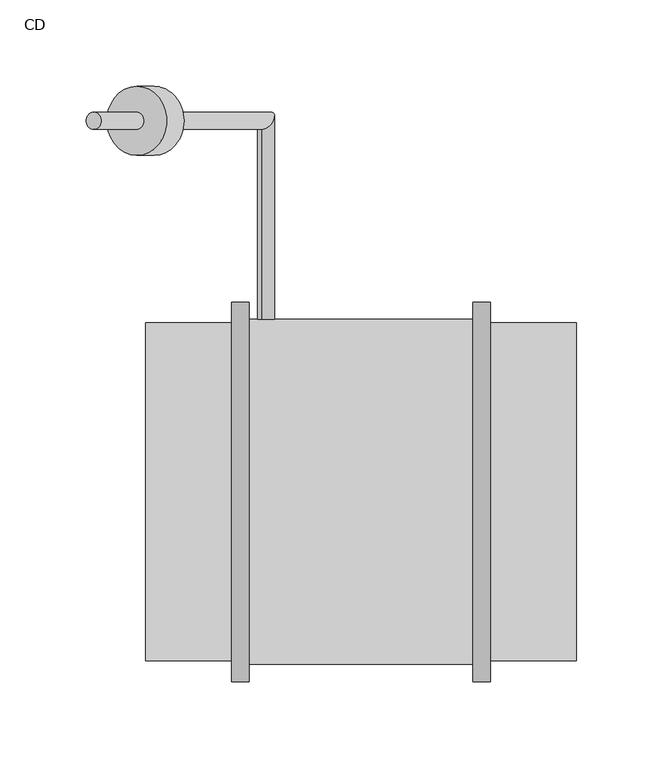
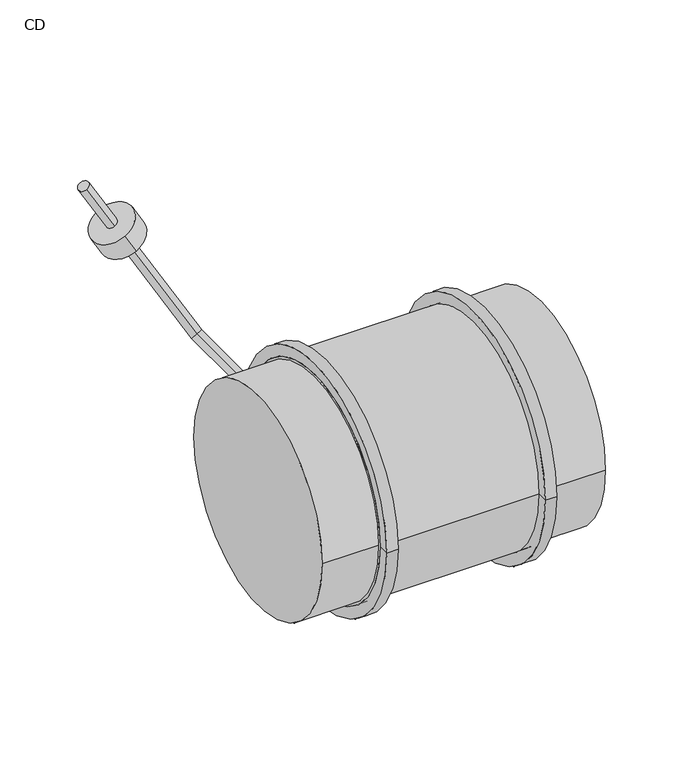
"""IFC4 building model written with IfcOpenShell, lengths in millimetres: damper geometry, 060_ダンパー_丸_一般 : CD."""

import ifcopenshell
import ifcopenshell.guid

model = None  # the IFC model being written
_history = None  # IfcOwnerHistory: only IFC2X3 demands one
_inside = {}  # id of a spatial element -> (the spatial element, [elements in it])
_under = {}  # id of a project, library or spatial element -> (it, [spatial elements below it])
_declared = {}  # id of a project -> (the project, [libraries it declares])
_typed = {}  # id of a type object -> (the type object, [elements of that type])
_made_of = {}  # id of a material, layer set ... -> (it, [elements and type objects made of it])


def new_model(schema):
    """Start an empty IFC model of exactly this schema.

    Asked for "IFC4X3", IfcOpenShell would pick the latest addendum, in which some entities
    have other attributes; the version numbers below select the first issue.
    IFC2X3 requires an IfcOwnerHistory on every rooted entity: one is made here for all.
    """
    global model, _history
    if schema == "IFC4X3":
        model = ifcopenshell.file(schema_version=(4, 3, 0, 0))
    else:
        model = ifcopenshell.file(schema=schema)
    _inside.clear()
    _under.clear()
    _declared.clear()
    _typed.clear()
    _made_of.clear()
    _history = None
    if model.schema == "IFC2X3":
        org = make("IfcOrganization", Name="unknown")
        user = make(
            "IfcPersonAndOrganization",
            ThePerson=make("IfcPerson", FamilyName="unknown"),
            TheOrganization=org,
        )
        app = make(
            "IfcApplication",
            ApplicationDeveloper=org,
            Version="unknown",
            ApplicationFullName="unknown",
            ApplicationIdentifier="unknown",
        )
        _history = make(
            "IfcOwnerHistory",
            OwningUser=user,
            OwningApplication=app,
            ChangeAction="ADDED",
            CreationDate=0,
        )
    return model


def make(cls, **values):
    """One entity of the class cls with the attributes given. An attribute that is None is left unset."""
    return model.create_entity(
        cls, **{name: value for name, value in values.items() if value is not None}
    )


def rooted(cls, **values):
    """An entity with a GlobalId (a new one), such as an element, a storey or a relation."""
    return make(cls, GlobalId=ifcopenshell.guid.new(), OwnerHistory=_history, **values)


def si_unit(unit_type, name, prefix=None):
    """IfcSIUnit, for example si_unit("LENGTHUNIT", "METRE", prefix="MILLI")."""
    return make("IfcSIUnit", UnitType=unit_type, Prefix=prefix, Name=name)


def assignment(units):
    """IfcUnitAssignment: the units of a project."""
    return None if units is None else make("IfcUnitAssignment", Units=units)


def point(xyz):
    """IfcCartesianPoint."""
    return None if xyz is None else make("IfcCartesianPoint", Coordinates=xyz)


def direction(xyz):
    """IfcDirection."""
    return None if xyz is None else make("IfcDirection", DirectionRatios=xyz)


def frame(location, z_axis=None, x_axis=None):
    """IfcAxis2Placement3D, a coordinate frame: its origin and axes. An axis left out is left unset."""
    return make(
        "IfcAxis2Placement3D",
        Location=point(location),
        Axis=direction(z_axis),
        RefDirection=direction(x_axis),
    )


def frame_2d(location, x_axis=None):
    """IfcAxis2Placement2D, a coordinate frame in the plane: its origin and x axis."""
    return make(
        "IfcAxis2Placement2D", Location=point(location), RefDirection=direction(x_axis)
    )


def origin():
    """The frame at (0, 0, 0) with its axes left unset."""
    return frame((0.0, 0.0, 0.0))


def origin_2d():
    """The frame at (0, 0) in the plane with its x axis left unset."""
    return frame_2d((0.0, 0.0))


def place(relative_to, where):
    """IfcLocalPlacement: puts the frame where relative to a parent placement (None: the world)."""
    return make(
        "IfcLocalPlacement", PlacementRelTo=relative_to, RelativePlacement=where
    )


def context(
    kind, dimensions, precision=None, world=None, true_north=None, identifier=None
):
    """IfcGeometricRepresentationContext, for example the 3D "Model" context."""
    return make(
        "IfcGeometricRepresentationContext",
        ContextIdentifier=identifier,
        ContextType=kind,
        CoordinateSpaceDimension=dimensions,
        Precision=precision,
        WorldCoordinateSystem=world,
        TrueNorth=true_north,
    )


def project(units=None, contexts=None):
    """IfcProject with its units and contexts."""
    return rooted(
        "IfcProject",
        Name="project",
        RepresentationContexts=contexts,
        UnitsInContext=assignment(units),
    )


def spatial(cls, under=None, at=None, **own):
    """A site, building, storey or space (cls), placed at a placement, below another one or the project."""
    s = rooted(cls, ObjectPlacement=at, **own)
    if under is not None:
        _under.setdefault(under.id(), (under, []))[1].append(s)
    return s


def polyline(points):
    """IfcPolyline through the points."""
    return make("IfcPolyline", Points=[point(p) for p in points])


def circle_curve(where, radius):
    """IfcCircle in the frame where."""
    return make("IfcCircle", Position=where, Radius=radius)


def ellipse_curve(where, semi_axis1, semi_axis2):
    """IfcEllipse in the frame where."""
    return make(
        "IfcEllipse", Position=where, SemiAxis1=semi_axis1, SemiAxis2=semi_axis2
    )


def trimmed(basis, trim1, trim2, sense, master):
    """IfcTrimmedCurve: the piece of a basis curve between two trims."""
    return make(
        "IfcTrimmedCurve",
        BasisCurve=basis,
        Trim1=trim1,
        Trim2=trim2,
        SenseAgreement=sense,
        MasterRepresentation=master,
    )


def segment(curve, same_sense, transition):
    """IfcCompositeCurveSegment."""
    return make(
        "IfcCompositeCurveSegment",
        Transition=transition,
        SameSense=same_sense,
        ParentCurve=curve,
    )


def composite_curve(segments, self_intersect=None):
    """IfcCompositeCurve: segments joined end to end."""
    return make("IfcCompositeCurve", Segments=segments, SelfIntersect=self_intersect)


def outline(outer, holes=None, kind="AREA"):
    """IfcArbitraryClosedProfileDef: a profile drawn as a closed curve; with holes, ...WithVoids."""
    if holes is None:
        return make("IfcArbitraryClosedProfileDef", ProfileType=kind, OuterCurve=outer)
    return make(
        "IfcArbitraryProfileDefWithVoids",
        ProfileType=kind,
        OuterCurve=outer,
        InnerCurves=holes,
    )


def extrude(swept, where, along, depth):
    """IfcExtrudedAreaSolid: the profile swept, set in the frame where, extruded along a direction by depth."""
    return make(
        "IfcExtrudedAreaSolid",
        SweptArea=swept,
        Position=where,
        ExtrudedDirection=direction(along),
        Depth=depth,
    )


def shape(context_of_items, identifier, shape_type, items):
    """IfcShapeRepresentation: the items that make up one representation, for example the "Body"."""
    return make(
        "IfcShapeRepresentation",
        ContextOfItems=context_of_items,
        RepresentationIdentifier=identifier,
        RepresentationType=shape_type,
        Items=items,
    )


def source(mapping_origin, context_of_items, identifier, shape_type, items):
    """IfcRepresentationMap: a shape defined once, which mapped items show again and again."""
    return make(
        "IfcRepresentationMap",
        MappingOrigin=mapping_origin,
        MappedRepresentation=shape(context_of_items, identifier, shape_type, items),
    )


def transform(
    local_origin,
    x_axis=None,
    y_axis=None,
    z_axis=None,
    scale=None,
    scale2=None,
    scale3=None,
    uniform=True,
):
    """IfcCartesianTransformationOperator3D, or its non-uniform kind. x_axis, y_axis, z_axis: its Axis1, 2, 3."""
    if uniform:
        return make(
            "IfcCartesianTransformationOperator3D",
            Axis1=direction(x_axis),
            Axis2=direction(y_axis),
            LocalOrigin=point(local_origin),
            Scale=scale,
            Axis3=direction(z_axis),
        )
    return make(
        "IfcCartesianTransformationOperator3DnonUniform",
        Axis1=direction(x_axis),
        Axis2=direction(y_axis),
        LocalOrigin=point(local_origin),
        Scale=scale,
        Axis3=direction(z_axis),
        Scale2=scale2,
        Scale3=scale3,
    )


def mapped(mapping_source, mapping_target):
    """IfcMappedItem: shows the shape of a source again, moved by a transform."""
    return make(
        "IfcMappedItem", MappingSource=mapping_source, MappingTarget=mapping_target
    )


def made_of(thing, what):
    """Note that an element or type object is made of a material, layer set ...; save() writes the relation."""
    if what is not None:
        _made_of.setdefault(what.id(), (what, []))[1].append(thing)
    return thing


def element(
    cls,
    number,
    at=None,
    inside=None,
    cuts=None,
    type_object=None,
    material=None,
    context=None,
    identifier="Body",
    shape_type=None,
    held_by="IfcProductDefinitionShape",
    body=None,
    shapes=None,
    **own,
):
    """One element of the class cls, such as IfcWall. Its Tag is "e" and its number.

    at: its placement. inside: the storey or other place that contains it. cuts: it is an
    opening in that element (IfcRelVoidsElement). A single representation is given by context,
    identifier, shape_type and body (its items); several are given by shapes. held_by: the class
    of the entity that holds the representations. save() writes the other relations.
    """
    e = rooted(cls, Tag="e%d" % number, ObjectPlacement=at, **own)
    if body is not None:
        shapes = [shape(context, identifier, shape_type, body)]
    if shapes is not None:
        e.Representation = make(held_by, Representations=shapes)
    if inside is not None:
        _inside.setdefault(inside.id(), (inside, []))[1].append(e)
    if cuts is not None:
        rooted(
            "IfcRelVoidsElement", RelatingBuildingElement=cuts, RelatedOpeningElement=e
        )
    if type_object is not None:
        _typed.setdefault(type_object.id(), (type_object, []))[1].append(e)
    return made_of(e, material)


def aggregate(whole, parts):
    """IfcRelAggregates: a whole, such as a stair, and the parts it consists of."""
    return rooted("IfcRelAggregates", RelatingObject=whole, RelatedObjects=parts)


def save(model, path):
    """Write the relations noted so far, then the file.

    IfcRelAggregates (storeys below a building ...), IfcRelContainedInSpatialStructure (elements
    in a storey), IfcRelDefinesByType, IfcRelAssociatesMaterial and IfcRelDeclares: one each for
    every whole, place, type object, material and project.
    """
    for whole, parts in _under.values():
        aggregate(whole, parts)
    for where, things in _inside.values():
        rooted(
            "IfcRelContainedInSpatialStructure",
            RelatedElements=things,
            RelatingStructure=where,
        )
    for kind, things in _typed.values():
        rooted("IfcRelDefinesByType", RelatedObjects=things, RelatingType=kind)
    for what, things in _made_of.values():
        rooted("IfcRelAssociatesMaterial", RelatedObjects=things, RelatingMaterial=what)
    for by, libraries in _declared.values():
        rooted("IfcRelDeclares", RelatingContext=by, RelatedDefinitions=libraries)
    model.write(path)


def plane_surface(at):
    """IfcPlane: the flat surface through the origin of the frame at, square to its z axis."""
    return make("IfcPlane", Position=at)


def cylinder_surface(at, radius):
    """IfcCylindricalSurface: all points at the distance radius from the z axis of the frame at."""
    return make("IfcCylindricalSurface", Position=at, Radius=radius)


def revolved_surface(curve, axis_point, axis_direction):
    """IfcSurfaceOfRevolution: the curve turned about the line through axis_point along axis_direction."""
    return make(
        "IfcSurfaceOfRevolution",
        SweptCurve=make("IfcArbitraryOpenProfileDef", ProfileType="CURVE", Curve=curve),
        AxisPosition=make("IfcAxis1Placement", Location=point(axis_point), Axis=direction(axis_direction)),
    )


def advanced_brep(points, edges, surfaces, faces):
    """IfcAdvancedBrep: a solid bounded by faces that lie on surfaces and meet in shared edges.

    An edge is (start, end): straight between two places in points (the first is 0);
    or (start, end, curve); or (start, end, curve, False) where it runs against its curve.
    A face is (place in surfaces, loops), or (place, loops, False) where it looks against
    its surface's normal. A loop lists edges by number (the first is 1), with a minus sign
    where the edge is run from its end to its start. The first loop is the outer one.
    """
    corners = [point(p) for p in points]
    vertices = [make("IfcVertexPoint", VertexGeometry=c) for c in corners]
    made = []
    for start, end, *more in edges:
        made.append(
            make(
                "IfcEdgeCurve",
                EdgeStart=vertices[start],
                EdgeEnd=vertices[end],
                EdgeGeometry=more[0] if more else make("IfcPolyline", Points=[corners[start], corners[end]]),
                SameSense=more[1] if len(more) > 1 else True,
            )
        )
    hull = []
    for where, loops, *sense in faces:
        bounds = []
        for j, loop in enumerate(loops):
            ring = [make("IfcOrientedEdge", EdgeElement=made[abs(k) - 1], Orientation=k > 0) for k in loop]
            bounds.append(
                make(
                    "IfcFaceOuterBound" if j == 0 else "IfcFaceBound",
                    Bound=make("IfcEdgeLoop", EdgeList=ring),
                    Orientation=True,
                )
            )
        hull.append(make("IfcAdvancedFace", Bounds=bounds, FaceSurface=surfaces[where], SameSense=sense[0] if sense else True))
    return make("IfcAdvancedBrep", Outer=make("IfcClosedShell", CfsFaces=hull))


def cd_96dda7bb(model_context):
    return source(origin(), model_context, "Body", "SolidModel", [
        extrude(outline(composite_curve([segment(trimmed(circle_curve(frame_2d((0.0, -20.0)), 20.0), [point((0.0, -40.0))], [point((0.0, 0.0))], False, "CARTESIAN"), True, "CONTINUOUS"), segment(trimmed(circle_curve(frame_2d((0.0, -20.0)), 20.0), [point((0.0, 0.0))], [point((0.0, -40.0))], False, "CARTESIAN"), True, "CONTINUOUS")], self_intersect=False)), frame((-120.0, 235.0, 112.5833025), z_axis=(-0.49999999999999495, 0.0, 0.8660254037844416), x_axis=(0.8660254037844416, 0.0, 0.49999999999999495)), (0.0, 0.0, 1.0), 20.0),
        advanced_brep(
        [(-52.5, 100.0, -4.330127), (-57.5, 100.0, 4.330127), (-52.5, 220.0, -4.330127), (-57.5, 210.0, 4.330127), (-155.0, 220.0, 173.2050808), (-155.0, 210.0, 173.2050808)],
        [
            (0, 1, circle_curve(frame((-55.0, 100.0, 0.0), z_axis=(0.0, -1.0, 0.0), x_axis=(-0.4999999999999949, 0.0, 0.8660254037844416)), 5.0)),
            (1, 0, circle_curve(frame((-55.0, 100.0, 0.0), z_axis=(0.0, -1.0, 0.0), x_axis=(-0.4999999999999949, 0.0, 0.8660254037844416)), 5.0)),
            (0, 2),
            (2, 3, ellipse_curve(frame((-55.0, 215.0, 0.0), z_axis=(0.3535533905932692, -0.7071067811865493, -0.612372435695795), x_axis=(-0.35355339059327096, -0.7071067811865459, 0.6123724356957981)), 7.0710678, 5.0)),
            (3, 1),
            (3, 2, ellipse_curve(frame((-55.0, 215.0, 0.0), z_axis=(0.3535533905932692, -0.7071067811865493, -0.612372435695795), x_axis=(-0.35355339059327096, -0.7071067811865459, 0.6123724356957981)), 7.0710678, 5.0)),
            (4, 5, circle_curve(frame((-155.0, 215.0, 173.2050808), z_axis=(-0.4999999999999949, 0.0, 0.8660254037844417), x_axis=(0.0, -1.0, 0.0)), 5.0)),
            (5, 4, circle_curve(frame((-155.0, 215.0, 173.2050808), z_axis=(-0.4999999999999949, 0.0, 0.8660254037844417), x_axis=(0.0, -1.0, 0.0)), 5.0)),
            (2, 4),
            (5, 3),
        ],
        [
            plane_surface(frame((-55.0, 100.0, 0.0), z_axis=(0.0, -1.0, 0.0), x_axis=(0.8660254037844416, 0.0, 0.4999999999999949))),
            cylinder_surface(frame((-55.0, 100.0, 0.0), z_axis=(0.0, -1.0, 0.0), x_axis=(-0.4999999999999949, 0.0, 0.8660254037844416)), 5.0),
            plane_surface(frame((-155.0, 215.0, 173.2050808), z_axis=(-0.4999999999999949, 0.0, 0.8660254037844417), x_axis=(0.8660254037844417, 0.0, 0.4999999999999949))),
            cylinder_surface(frame((-55.0, 215.0, 0.0), z_axis=(0.4999999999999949, 0.0, -0.8660254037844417), x_axis=(0.0, -1.0, 0.0)), 5.0),
        ],
        [
            (0, [[1, 2]]),
            (1, [[-1, 3, 4, 5]]),
            (1, [[-2, -5, 6, -3]]),
            (2, [[7, 8]]),
            (3, [[-4, 9, -8, 10]]),
            (3, [[-6, -10, -7, -9]]),
        ],
    ),
        extrude(outline(composite_curve([segment(trimmed(circle_curve(origin_2d(), 100.0), [point((-100.0, 0.0))], [point((100.0, 0.0))], False, "CARTESIAN"), True, "CONTINUOUS"), segment(trimmed(circle_curve(origin_2d(), 100.0), [point((100.0, 0.0))], [point((-100.0, 0.0))], False, "CARTESIAN"), True, "CONTINUOUS")], self_intersect=False)), frame((-75.0, 0.0, 0.0), z_axis=(1.0, 0.0, 0.0), x_axis=(0.0, 1.0, 0.0)), (0.0, 0.0, 1.0), 150.0),
        advanced_brep(
        [(-65.0, -110.0, 0.0), (-65.0, 110.0, 0.0), (-65.0, 100.0, 0.0), (-65.0, -100.0, 0.0), (-75.0, -110.0, 0.0), (-75.0, 110.0, 0.0), (-75.0, -100.0, 0.0), (-75.0, 100.0, 0.0)],
        [
            (0, 1, circle_curve(frame((-65.0, 0.0, 0.0), z_axis=(1.0, 0.0, 0.0), x_axis=(0.0, 1.0, 0.0)), 110.0)),
            (1, 2),
            (2, 3, circle_curve(frame((-65.0, 0.0, 0.0), z_axis=(-1.0, 0.0, 0.0), x_axis=(0.0, 1.0, 0.0)), 100.0)),
            (3, 0),
            (1, 0, circle_curve(frame((-65.0, 0.0, 0.0), z_axis=(1.0, 0.0, 0.0), x_axis=(0.0, 1.0, 0.0)), 110.0)),
            (3, 2, circle_curve(frame((-65.0, 0.0, 0.0), z_axis=(-1.0, 0.0, 0.0), x_axis=(0.0, 1.0, 0.0)), 100.0)),
            (4, 5, circle_curve(frame((-75.0, 0.0, 0.0), z_axis=(1.0, 0.0, 0.0), x_axis=(0.0, 1.0, 0.0)), 110.0)),
            (5, 1),
            (0, 4),
            (5, 4, circle_curve(frame((-75.0, 0.0, 0.0), z_axis=(1.0, 0.0, 0.0), x_axis=(0.0, 1.0, 0.0)), 110.0)),
            (6, 7, circle_curve(frame((-75.0, 0.0, 0.0), z_axis=(1.0, 0.0, 0.0), x_axis=(0.0, 1.0, 0.0)), 100.0)),
            (7, 5),
            (4, 6),
            (7, 6, circle_curve(frame((-75.0, 0.0, 0.0), z_axis=(1.0, 0.0, 0.0), x_axis=(0.0, 1.0, 0.0)), 100.0)),
            (2, 7),
            (6, 3),
        ],
        [
            plane_surface(frame((-65.0, 0.0, 0.0), z_axis=(1.0, 0.0, 0.0), x_axis=(0.0, 1.0, 0.0))),
            cylinder_surface(frame((-560.0, 0.0, 0.0), z_axis=(-1.0, 0.0, 0.0), x_axis=(0.0, 1.0, 0.0)), 110.0),
            plane_surface(frame((-75.0, 0.0, 0.0), z_axis=(-1.0, 0.0, 0.0), x_axis=(0.0, 1.0, 0.0))),
            revolved_surface(polyline([(-75.0, 100.0, 0.0), (-65.0, 100.0, 0.0)]), (-560.0, 0.0, 0.0), (-1.0, 0.0, 0.0)),
        ],
        [
            (0, [[1, 2, 3, 4]]),
            (0, [[5, -4, 6, -2]]),
            (1, [[7, 8, -1, 9]]),
            (1, [[10, -9, -5, -8]]),
            (2, [[11, 12, -7, 13]]),
            (2, [[14, -13, -10, -12]]),
            (3, [[-3, 15, -11, 16]]),
            (3, [[-6, -16, -14, -15]]),
        ],
    ),
        advanced_brep(
        [(65.0, -100.0, 0.0), (65.0, 100.0, 0.0), (65.0, 110.0, 0.0), (65.0, -110.0, 0.0), (75.0, 110.0, 0.0), (75.0, -110.0, 0.0), (75.0, 100.0, 0.0), (75.0, -100.0, 0.0)],
        [
            (0, 1, circle_curve(frame((65.0, 0.0, 0.0), z_axis=(1.0, 0.0, 0.0), x_axis=(0.0, 1.0, 0.0)), 100.0)),
            (1, 2),
            (2, 3, circle_curve(frame((65.0, 0.0, 0.0), z_axis=(-1.0, 0.0, 0.0), x_axis=(0.0, 1.0, 0.0)), 110.0)),
            (3, 0),
            (1, 0, circle_curve(frame((65.0, 0.0, 0.0), z_axis=(1.0, 0.0, 0.0), x_axis=(0.0, 1.0, 0.0)), 100.0)),
            (3, 2, circle_curve(frame((65.0, 0.0, 0.0), z_axis=(-1.0, 0.0, 0.0), x_axis=(0.0, 1.0, 0.0)), 110.0)),
            (2, 4),
            (4, 5, circle_curve(frame((75.0, 0.0, 0.0), z_axis=(-1.0, 0.0, 0.0), x_axis=(0.0, 1.0, 0.0)), 110.0)),
            (5, 3),
            (5, 4, circle_curve(frame((75.0, 0.0, 0.0), z_axis=(-1.0, 0.0, 0.0), x_axis=(0.0, 1.0, 0.0)), 110.0)),
            (4, 6),
            (6, 7, circle_curve(frame((75.0, 0.0, 0.0), z_axis=(-1.0, 0.0, 0.0), x_axis=(0.0, 1.0, 0.0)), 100.0)),
            (7, 5),
            (7, 6, circle_curve(frame((75.0, 0.0, 0.0), z_axis=(-1.0, 0.0, 0.0), x_axis=(0.0, 1.0, 0.0)), 100.0)),
            (6, 1),
            (0, 7),
        ],
        [
            plane_surface(frame((65.0, 0.0, 0.0), z_axis=(-1.0, 0.0, 0.0), x_axis=(0.0, 1.0, 0.0))),
            cylinder_surface(frame((-360.0, 0.0, 0.0), z_axis=(-1.0, 0.0, 0.0), x_axis=(0.0, 1.0, 0.0)), 110.0),
            plane_surface(frame((75.0, 0.0, 0.0), z_axis=(1.0, 0.0, 0.0), x_axis=(0.0, 1.0, 0.0))),
            revolved_surface(polyline([(65.0, 100.0, 0.0), (75.0, 100.0, 0.0)]), (-360.0, 0.0, 0.0), (-1.0, 0.0, 0.0)),
        ],
        [
            (0, [[1, 2, 3, 4]]),
            (0, [[5, -4, 6, -2]]),
            (1, [[-3, 7, 8, 9]]),
            (1, [[-6, -9, 10, -7]]),
            (2, [[-8, 11, 12, 13]]),
            (2, [[-10, -13, 14, -11]]),
            (3, [[-12, 15, -1, 16]]),
            (3, [[-14, -16, -5, -15]]),
        ],
    ),
        extrude(outline(composite_curve([segment(trimmed(circle_curve(origin_2d(), 98.0), [point((-98.0, 0.0))], [point((98.0, 0.0))], False, "CARTESIAN"), True, "CONTINUOUS"), segment(trimmed(circle_curve(origin_2d(), 98.0), [point((98.0, 0.0))], [point((-98.0, 0.0))], False, "CARTESIAN"), True, "CONTINUOUS")], self_intersect=False)), frame((-125.0, 0.0, 0.0), z_axis=(1.0, 0.0, 0.0), x_axis=(0.0, 1.0, 0.0)), (0.0, 0.0, 1.0), 50.0),
        extrude(outline(composite_curve([segment(trimmed(circle_curve(origin_2d(), 98.0), [point((-98.0, 0.0))], [point((98.0, 0.0))], False, "CARTESIAN"), True, "CONTINUOUS"), segment(trimmed(circle_curve(origin_2d(), 98.0), [point((98.0, 0.0))], [point((-98.0, 0.0))], False, "CARTESIAN"), True, "CONTINUOUS")], self_intersect=False)), frame((75.0, 0.0, 0.0), z_axis=(1.0, 0.0, 0.0), x_axis=(0.0, 1.0, 0.0)), (0.0, 0.0, 1.0), 50.0),
    ])


if __name__ == "__main__":
    model = new_model("IFC4")
    model_context = context("Model", 3, world=origin())
    ifc_project = project(units=[si_unit("LENGTHUNIT", "METRE", prefix="MILLI")], contexts=[model_context])
    site = spatial("IfcSite", under=ifc_project)
    building = spatial("IfcBuilding", under=site)
    placement = place(None, origin())
    cd_shape = cd_96dda7bb(model_context)
    element("IfcDamper", 1, ObjectType="060_ダンパー_丸_一般 : CD", at=placement, inside=building, context=model_context, shape_type="MappedRepresentation", body=[
        mapped(cd_shape, transform((0.0, 0.0, 0.0), x_axis=(1.0, 0.0, 0.0), y_axis=(0.0, 1.0, 0.0), z_axis=(0.0, 0.0, 1.0))),
    ])
    save(model, "model.ifc")
